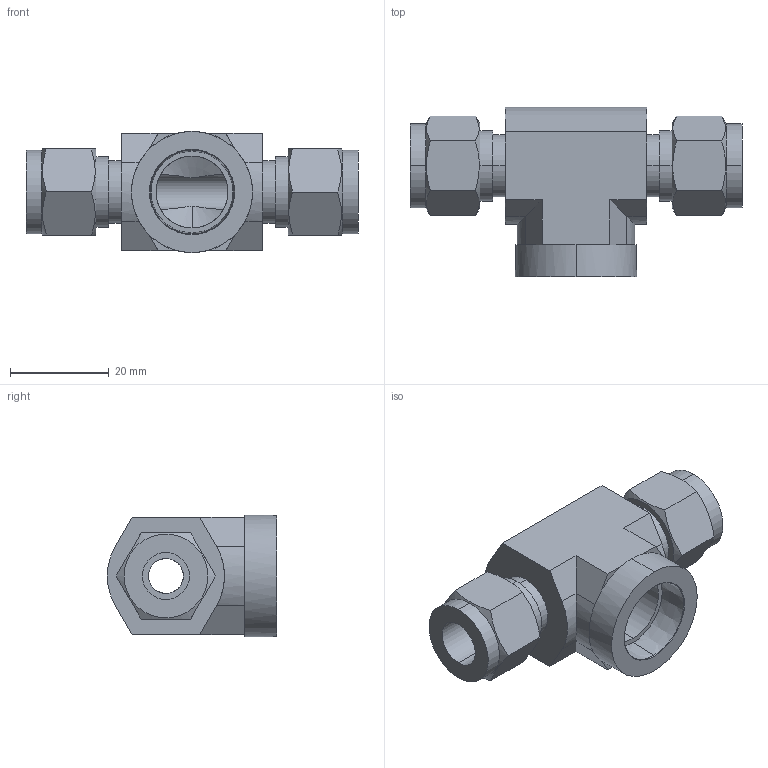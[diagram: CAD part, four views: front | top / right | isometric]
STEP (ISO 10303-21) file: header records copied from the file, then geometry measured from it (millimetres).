
FILE_DESCRIPTION (( 'STEP AP203' ), '1' );
FILE_NAME ('DTH06-06 SS.STEP', '2009-10-26T05:48:28', ( ' ' ), ( '' ), 'SwSTEP 2.0', 'SolidWorks 2008', '' );
FILE_SCHEMA (( 'CONFIG_CONTROL_DESIGN' ));
Length unit declared in the file: millimetre
Products named in the file (1): DTH06-06 SS
Bounding box: 67.4 x 34.4 x 24.6 mm (x, y, z)
Volume: 20523.8 mm3; surface area: 9331.9 mm2
Topology: 1 solids, 1 shells, 87 faces, 208 edges, 131 vertices
Faces by surface type: plane 44, cylinder 28, cone 15
Entity records: 2900 total; most frequent: CARTESIAN_POINT 814, ORIENTED_EDGE 416, DIRECTION 415, EDGE_CURVE 208, AXIS2_PLACEMENT_3D 158, VERTEX_POINT 131, EDGE_LOOP 99, VECTOR 99
